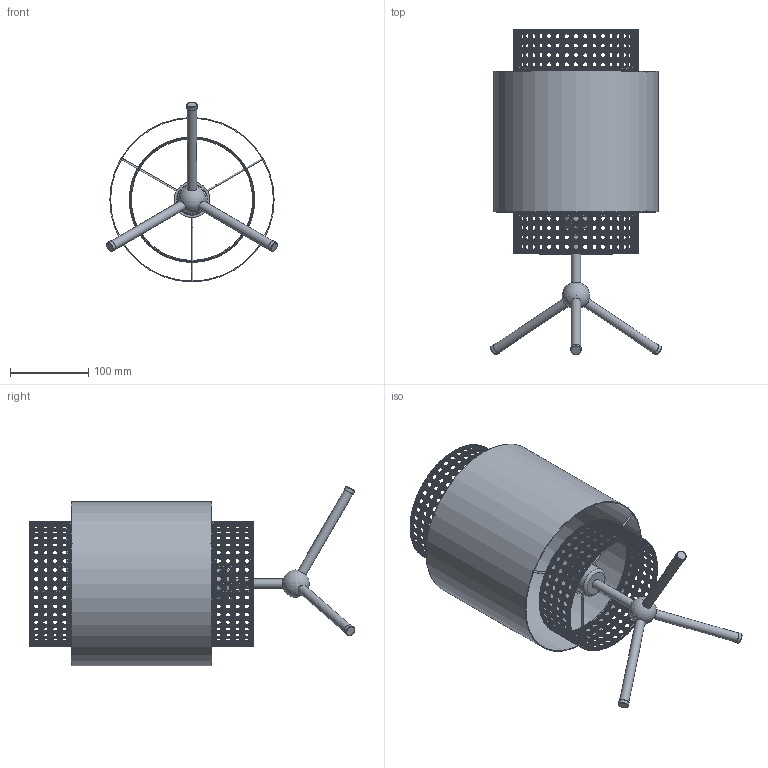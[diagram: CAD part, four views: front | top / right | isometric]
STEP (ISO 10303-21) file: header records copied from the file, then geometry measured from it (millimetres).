
FILE_DESCRIPTION(/* description */ (''),/* implementation_level */ '2;1');
FILE_NAME(/* name */ 'C:/Users/kubaw/OneDrive/Pulpit/Nowy folder (3)/6565_BOHO v2.step',/* time_stamp */ '2021-12-11T10:17:31+01:00',/* author */ (''),/* organization */ (''),/* preprocessor_version */ 'ST-DEVELOPER v18.1',/* originating_system */ 'Autodesk Translation Framework v10.10.0.1391',/* authorisation */ '');
FILE_SCHEMA (('AUTOMOTIVE_DESIGN { 1 0 10303 214 3 1 1 }'));
Length unit declared in the file: millimetre
Products named in the file (2): 6565_BOHO; MOCOWANIE_BOHO v1
Assembly tree (1 placements, depth 2):
  6565_BOHO
    MOCOWANIE_BOHO v1
Bounding box: 218.65 x 416.2 x 229.57 mm (x, y, z)
Volume: 281511.3 mm3; surface area: 456209.5 mm2
Topology: 383 solids, 383 shells, 3645 faces, 8640 edges, 5760 vertices
Faces by surface type: cylinder 1438, plane 1095, bspline 1015, torus 93, sphere 4
Full cylindrical faces by diameter (mm): 2.4 x9, 9.216 x1, 12 x7, 13 x3, 23.808 x1, 29.915 x10, 32.256 x1, 34.56 x3, 38.4 x1, 39.6 x1, 39.744 x1, 45.6 x1, 155.182 x4, 158.382 x4, 158.4 x20, 160 x20, 208 x1, 210 x1
Entity records: 250488 total; most frequent: CARTESIAN_POINT 172283, ORIENTED_EDGE 17276, DIRECTION 13950, EDGE_CURVE 8638, VERTEX_POINT 5760, AXIS2_PLACEMENT_3D 5754, EDGE_LOOP 3708, FACE_OUTER_BOUND 3645
